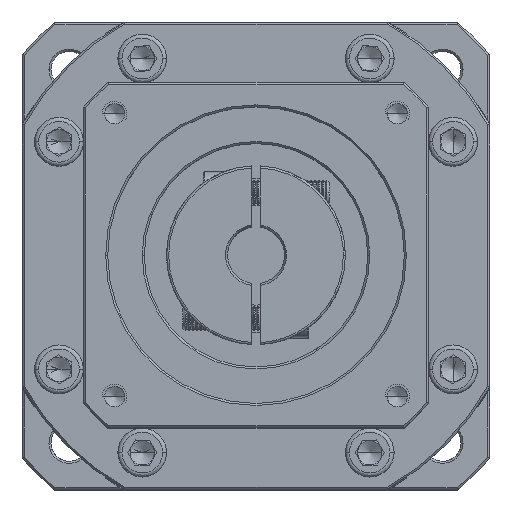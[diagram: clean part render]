
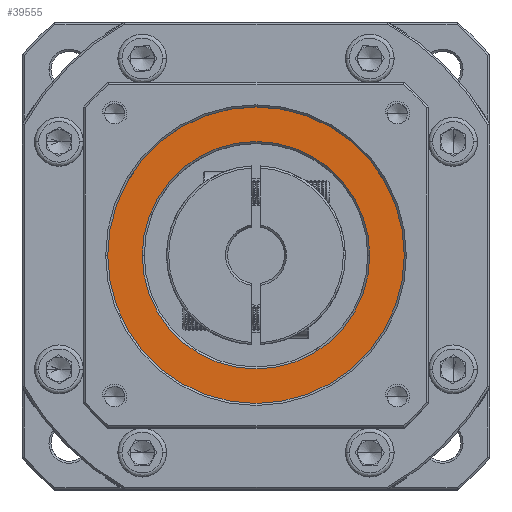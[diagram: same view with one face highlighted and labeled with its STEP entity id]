
A CAD part, top view. The second image highlights one B-rep face of the part: STEP entity #39555.
In plain terms, the highlighted planar face has unit normal (0, 0, 1).
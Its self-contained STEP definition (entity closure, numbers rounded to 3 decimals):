
#7333 = ORIENTED_EDGE ( 'NONE', *, *, #14947, .T. ) ;
#10202 = CARTESIAN_POINT ( 'NONE',  ( 57.835, 76.659, 18.624 ) ) ;
#14947 = EDGE_CURVE ( 'NONE', #52100, #107751, #79918, .T. ) ;
#16657 = EDGE_LOOP ( 'NONE', ( #7333, #93302 ) ) ;
#18319 = AXIS2_PLACEMENT_3D ( 'NONE', #86834, #30864, #96311 ) ;
#19589 = DIRECTION ( 'NONE',  ( 1., 0., 0. ) ) ;
#28708 = FACE_OUTER_BOUND ( 'NONE', #91382, .T. ) ;
#30266 = CARTESIAN_POINT ( 'NONE',  ( 57.835, 76.659, 18.624 ) ) ;
#30864 = DIRECTION ( 'NONE',  ( 0., 0., 1. ) ) ;
#32583 = CIRCLE ( 'NONE', #93929, 36.5 ) ;
#37886 = AXIS2_PLACEMENT_3D ( 'NONE', #109019, #52912, #118506 ) ;
#38781 = CARTESIAN_POINT ( 'NONE',  ( 57.835, 76.659, 18.624 ) ) ;
#39555 = ADVANCED_FACE ( 'NONE', ( #28708, #103365 ), #77018, .T. ) ;
#39665 = DIRECTION ( 'NONE',  ( 1., 0., 0. ) ) ;
#42184 = EDGE_CURVE ( 'NONE', #112147, #103323, #32583, .T. ) ;
#48203 = DIRECTION ( 'NONE',  ( 1., 0., 0. ) ) ;
#50050 = CIRCLE ( 'NONE', #67806, 36.5 ) ;
#50315 = ORIENTED_EDGE ( 'NONE', *, *, #42184, .T. ) ;
#52100 = VERTEX_POINT ( 'NONE', #83296 ) ;
#52912 = DIRECTION ( 'NONE',  ( 0., 0., -1. ) ) ;
#55221 = EDGE_CURVE ( 'NONE', #103323, #112147, #50050, .T. ) ;
#62019 = CIRCLE ( 'NONE', #116943, 28. ) ;
#67806 = AXIS2_PLACEMENT_3D ( 'NONE', #10202, #75567, #19589 ) ;
#68665 = ORIENTED_EDGE ( 'NONE', *, *, #55221, .T. ) ;
#75567 = DIRECTION ( 'NONE',  ( 0., 0., 1. ) ) ;
#77018 = PLANE ( 'NONE',  #18319 ) ;
#79918 = CIRCLE ( 'NONE', #37886, 28. ) ;
#83296 = CARTESIAN_POINT ( 'NONE',  ( 85.835, 76.659, 18.624 ) ) ;
#86834 = CARTESIAN_POINT ( 'NONE',  ( 57.835, 76.659, 18.624 ) ) ;
#87999 = CARTESIAN_POINT ( 'NONE',  ( 94.335, 76.659, 18.624 ) ) ;
#91060 = EDGE_CURVE ( 'NONE', #107751, #52100, #62019, .T. ) ;
#91382 = EDGE_LOOP ( 'NONE', ( #50315, #68665 ) ) ;
#93302 = ORIENTED_EDGE ( 'NONE', *, *, #91060, .T. ) ;
#93929 = AXIS2_PLACEMENT_3D ( 'NONE', #30266, #95710, #39665 ) ;
#95710 = DIRECTION ( 'NONE',  ( 0., 0., 1. ) ) ;
#96311 = DIRECTION ( 'NONE',  ( 1., 0., 0. ) ) ;
#98611 = CARTESIAN_POINT ( 'NONE',  ( 21.335, 76.659, 18.624 ) ) ;
#103323 = VERTEX_POINT ( 'NONE', #98611 ) ;
#103365 = FACE_BOUND ( 'NONE', #16657, .T. ) ;
#104259 = DIRECTION ( 'NONE',  ( 0., 0., -1. ) ) ;
#107751 = VERTEX_POINT ( 'NONE', #111216 ) ;
#109019 = CARTESIAN_POINT ( 'NONE',  ( 57.835, 76.659, 18.624 ) ) ;
#111216 = CARTESIAN_POINT ( 'NONE',  ( 29.835, 76.659, 18.624 ) ) ;
#112147 = VERTEX_POINT ( 'NONE', #87999 ) ;
#116943 = AXIS2_PLACEMENT_3D ( 'NONE', #38781, #104259, #48203 ) ;
#118506 = DIRECTION ( 'NONE',  ( 1., 0., 0. ) ) ;
